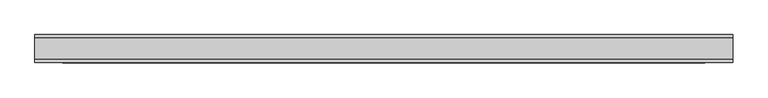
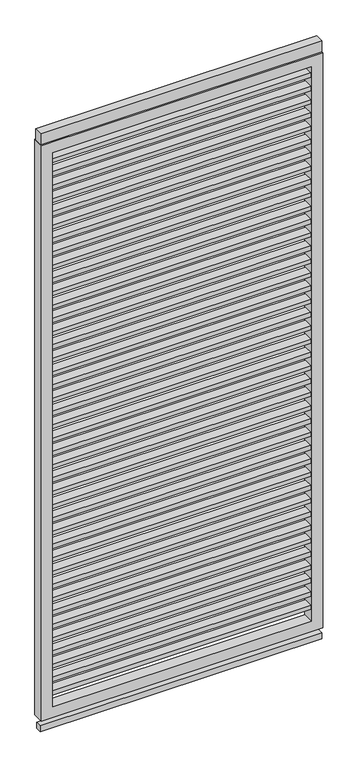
"""IFC4 building model written with IfcOpenShell, lengths in millimetres: proxy geometry, Renson_Camargue_Loggia_Plano : Renson_Camargue_Loggia_Plano."""

from ifc_helpers import new_model, si_unit, frame, origin, origin_with_axes, place, context, project, spatial, polyline, outline, extrude, source, transform, mapped, element, save


def generic_models_42a8c13e(model_context):
    return source(origin(), model_context, "Body", "SweptSolid", [
        extrude(outline(polyline([(460.0, 16.5), (460.0, -16.5), (-460.0, -16.5), (-460.0, 16.5), (460.0, 16.5)])), frame((0.0, 0.0, 2127.0), z_axis=(0.0, 0.0, 1.0), x_axis=(1.0, 0.0, 0.0)), (0.0, 0.0, 1.0), 16.0),
        extrude(outline(polyline([(460.0, 16.5), (460.0, -16.5), (-460.0, -16.5), (-460.0, 16.5), (460.0, 16.5)])), frame((0.0, 0.0, 2077.0), z_axis=(0.0, 0.0, 1.0), x_axis=(1.0, 0.0, 0.0)), (0.0, 0.0, 1.0), 16.0),
        extrude(outline(polyline([(460.0, 16.5), (460.0, -16.5), (-460.0, -16.5), (-460.0, 16.5), (460.0, 16.5)])), frame((0.0, 0.0, 2027.0), z_axis=(0.0, 0.0, 1.0), x_axis=(1.0, 0.0, 0.0)), (0.0, 0.0, 1.0), 16.0),
        extrude(outline(polyline([(460.0, 16.5), (460.0, -16.5), (-460.0, -16.5), (-460.0, 16.5), (460.0, 16.5)])), frame((0.0, 0.0, 1977.0), z_axis=(0.0, 0.0, 1.0), x_axis=(1.0, 0.0, 0.0)), (0.0, 0.0, 1.0), 16.0),
        extrude(outline(polyline([(460.0, 16.5), (460.0, -16.5), (-460.0, -16.5), (-460.0, 16.5), (460.0, 16.5)])), frame((0.0, 0.0, 1927.0), z_axis=(0.0, 0.0, 1.0), x_axis=(1.0, 0.0, 0.0)), (0.0, 0.0, 1.0), 16.0),
        extrude(outline(polyline([(460.0, 16.5), (460.0, -16.5), (-460.0, -16.5), (-460.0, 16.5), (460.0, 16.5)])), frame((0.0, 0.0, 1877.0), z_axis=(0.0, 0.0, 1.0), x_axis=(1.0, 0.0, 0.0)), (0.0, 0.0, 1.0), 16.0),
        extrude(outline(polyline([(460.0, 16.5), (460.0, -16.5), (-460.0, -16.5), (-460.0, 16.5), (460.0, 16.5)])), frame((0.0, 0.0, 1827.0), z_axis=(0.0, 0.0, 1.0), x_axis=(1.0, 0.0, 0.0)), (0.0, 0.0, 1.0), 16.0),
        extrude(outline(polyline([(460.0, 16.5), (460.0, -16.5), (-460.0, -16.5), (-460.0, 16.5), (460.0, 16.5)])), frame((0.0, 0.0, 1777.0), z_axis=(0.0, 0.0, 1.0), x_axis=(1.0, 0.0, 0.0)), (0.0, 0.0, 1.0), 16.0),
        extrude(outline(polyline([(460.0, 16.5), (460.0, -16.5), (-460.0, -16.5), (-460.0, 16.5), (460.0, 16.5)])), frame((0.0, 0.0, 1727.0), z_axis=(0.0, 0.0, 1.0), x_axis=(1.0, 0.0, 0.0)), (0.0, 0.0, 1.0), 16.0),
        extrude(outline(polyline([(460.0, 16.5), (460.0, -16.5), (-460.0, -16.5), (-460.0, 16.5), (460.0, 16.5)])), frame((0.0, 0.0, 1677.0), z_axis=(0.0, 0.0, 1.0), x_axis=(1.0, 0.0, 0.0)), (0.0, 0.0, 1.0), 16.0),
        extrude(outline(polyline([(460.0, 16.5), (460.0, -16.5), (-460.0, -16.5), (-460.0, 16.5), (460.0, 16.5)])), frame((0.0, 0.0, 1627.0), z_axis=(0.0, 0.0, 1.0), x_axis=(1.0, 0.0, 0.0)), (0.0, 0.0, 1.0), 16.0),
        extrude(outline(polyline([(460.0, 16.5), (460.0, -16.5), (-460.0, -16.5), (-460.0, 16.5), (460.0, 16.5)])), frame((0.0, 0.0, 1577.0), z_axis=(0.0, 0.0, 1.0), x_axis=(1.0, 0.0, 0.0)), (0.0, 0.0, 1.0), 16.0),
        extrude(outline(polyline([(460.0, 16.5), (460.0, -16.5), (-460.0, -16.5), (-460.0, 16.5), (460.0, 16.5)])), frame((0.0, 0.0, 1527.0), z_axis=(0.0, 0.0, 1.0), x_axis=(1.0, 0.0, 0.0)), (0.0, 0.0, 1.0), 16.0),
        extrude(outline(polyline([(460.0, 16.5), (460.0, -16.5), (-460.0, -16.5), (-460.0, 16.5), (460.0, 16.5)])), frame((0.0, 0.0, 1477.0), z_axis=(0.0, 0.0, 1.0), x_axis=(1.0, 0.0, 0.0)), (0.0, 0.0, 1.0), 16.0),
        extrude(outline(polyline([(460.0, 16.5), (460.0, -16.5), (-460.0, -16.5), (-460.0, 16.5), (460.0, 16.5)])), frame((0.0, 0.0, 1427.0), z_axis=(0.0, 0.0, 1.0), x_axis=(1.0, 0.0, 0.0)), (0.0, 0.0, 1.0), 16.0),
        extrude(outline(polyline([(460.0, 16.5), (460.0, -16.5), (-460.0, -16.5), (-460.0, 16.5), (460.0, 16.5)])), frame((0.0, 0.0, 1377.0), z_axis=(0.0, 0.0, 1.0), x_axis=(1.0, 0.0, 0.0)), (0.0, 0.0, 1.0), 16.0),
        extrude(outline(polyline([(460.0, 16.5), (460.0, -16.5), (-460.0, -16.5), (-460.0, 16.5), (460.0, 16.5)])), frame((0.0, 0.0, 1327.0), z_axis=(0.0, 0.0, 1.0), x_axis=(1.0, 0.0, 0.0)), (0.0, 0.0, 1.0), 16.0),
        extrude(outline(polyline([(460.0, 16.5), (460.0, -16.5), (-460.0, -16.5), (-460.0, 16.5), (460.0, 16.5)])), frame((0.0, 0.0, 1277.0), z_axis=(0.0, 0.0, 1.0), x_axis=(1.0, 0.0, 0.0)), (0.0, 0.0, 1.0), 16.0),
        extrude(outline(polyline([(460.0, 16.5), (460.0, -16.5), (-460.0, -16.5), (-460.0, 16.5), (460.0, 16.5)])), frame((0.0, 0.0, 1227.0), z_axis=(0.0, 0.0, 1.0), x_axis=(1.0, 0.0, 0.0)), (0.0, 0.0, 1.0), 16.0),
        extrude(outline(polyline([(460.0, 16.5), (460.0, -16.5), (-460.0, -16.5), (-460.0, 16.5), (460.0, 16.5)])), frame((0.0, 0.0, 1177.0), z_axis=(0.0, 0.0, 1.0), x_axis=(1.0, 0.0, 0.0)), (0.0, 0.0, 1.0), 16.0),
        extrude(outline(polyline([(460.0, 16.5), (460.0, -16.5), (-460.0, -16.5), (-460.0, 16.5), (460.0, 16.5)])), frame((0.0, 0.0, 1127.0), z_axis=(0.0, 0.0, 1.0), x_axis=(1.0, 0.0, 0.0)), (0.0, 0.0, 1.0), 16.0),
        extrude(outline(polyline([(460.0, 16.5), (460.0, -16.5), (-460.0, -16.5), (-460.0, 16.5), (460.0, 16.5)])), frame((0.0, 0.0, 1077.0), z_axis=(0.0, 0.0, 1.0), x_axis=(1.0, 0.0, 0.0)), (0.0, 0.0, 1.0), 16.0),
        extrude(outline(polyline([(460.0, 16.5), (460.0, -16.5), (-460.0, -16.5), (-460.0, 16.5), (460.0, 16.5)])), frame((0.0, 0.0, 1027.0), z_axis=(0.0, 0.0, 1.0), x_axis=(1.0, 0.0, 0.0)), (0.0, 0.0, 1.0), 16.0),
        extrude(outline(polyline([(460.0, 16.5), (460.0, -16.5), (-460.0, -16.5), (-460.0, 16.5), (460.0, 16.5)])), frame((0.0, 0.0, 977.0), z_axis=(0.0, 0.0, 1.0), x_axis=(1.0, 0.0, 0.0)), (0.0, 0.0, 1.0), 16.0),
        extrude(outline(polyline([(460.0, 16.5), (460.0, -16.5), (-460.0, -16.5), (-460.0, 16.5), (460.0, 16.5)])), frame((0.0, 0.0, 927.0), z_axis=(0.0, 0.0, 1.0), x_axis=(1.0, 0.0, 0.0)), (0.0, 0.0, 1.0), 16.0),
        extrude(outline(polyline([(460.0, 16.5), (460.0, -16.5), (-460.0, -16.5), (-460.0, 16.5), (460.0, 16.5)])), frame((0.0, 0.0, 877.0), z_axis=(0.0, 0.0, 1.0), x_axis=(1.0, 0.0, 0.0)), (0.0, 0.0, 1.0), 16.0),
        extrude(outline(polyline([(460.0, 16.5), (460.0, -16.5), (-460.0, -16.5), (-460.0, 16.5), (460.0, 16.5)])), frame((0.0, 0.0, 827.0), z_axis=(0.0, 0.0, 1.0), x_axis=(1.0, 0.0, 0.0)), (0.0, 0.0, 1.0), 16.0),
        extrude(outline(polyline([(460.0, 16.5), (460.0, -16.5), (-460.0, -16.5), (-460.0, 16.5), (460.0, 16.5)])), frame((0.0, 0.0, 777.0), z_axis=(0.0, 0.0, 1.0), x_axis=(1.0, 0.0, 0.0)), (0.0, 0.0, 1.0), 16.0),
        extrude(outline(polyline([(460.0, 16.5), (460.0, -16.5), (-460.0, -16.5), (-460.0, 16.5), (460.0, 16.5)])), frame((0.0, 0.0, 727.0), z_axis=(0.0, 0.0, 1.0), x_axis=(1.0, 0.0, 0.0)), (0.0, 0.0, 1.0), 16.0),
        extrude(outline(polyline([(460.0, 16.5), (460.0, -16.5), (-460.0, -16.5), (-460.0, 16.5), (460.0, 16.5)])), frame((0.0, 0.0, 677.0), z_axis=(0.0, 0.0, 1.0), x_axis=(1.0, 0.0, 0.0)), (0.0, 0.0, 1.0), 16.0),
        extrude(outline(polyline([(460.0, 16.5), (460.0, -16.5), (-460.0, -16.5), (-460.0, 16.5), (460.0, 16.5)])), frame((0.0, 0.0, 627.0), z_axis=(0.0, 0.0, 1.0), x_axis=(1.0, 0.0, 0.0)), (0.0, 0.0, 1.0), 16.0),
        extrude(outline(polyline([(460.0, 16.5), (460.0, -16.5), (-460.0, -16.5), (-460.0, 16.5), (460.0, 16.5)])), frame((0.0, 0.0, 577.0), z_axis=(0.0, 0.0, 1.0), x_axis=(1.0, 0.0, 0.0)), (0.0, 0.0, 1.0), 16.0),
        extrude(outline(polyline([(460.0, 16.5), (460.0, -16.5), (-460.0, -16.5), (-460.0, 16.5), (460.0, 16.5)])), frame((0.0, 0.0, 527.0), z_axis=(0.0, 0.0, 1.0), x_axis=(1.0, 0.0, 0.0)), (0.0, 0.0, 1.0), 16.0),
        extrude(outline(polyline([(460.0, 16.5), (460.0, -16.5), (-460.0, -16.5), (-460.0, 16.5), (460.0, 16.5)])), frame((0.0, 0.0, 477.0), z_axis=(0.0, 0.0, 1.0), x_axis=(1.0, 0.0, 0.0)), (0.0, 0.0, 1.0), 16.0),
        extrude(outline(polyline([(460.0, 16.5), (460.0, -16.5), (-460.0, -16.5), (-460.0, 16.5), (460.0, 16.5)])), frame((0.0, 0.0, 427.0), z_axis=(0.0, 0.0, 1.0), x_axis=(1.0, 0.0, 0.0)), (0.0, 0.0, 1.0), 16.0),
        extrude(outline(polyline([(460.0, 16.5), (460.0, -16.5), (-460.0, -16.5), (-460.0, 16.5), (460.0, 16.5)])), frame((0.0, 0.0, 377.0), z_axis=(0.0, 0.0, 1.0), x_axis=(1.0, 0.0, 0.0)), (0.0, 0.0, 1.0), 16.0),
        extrude(outline(polyline([(460.0, 16.5), (460.0, -16.5), (-460.0, -16.5), (-460.0, 16.5), (460.0, 16.5)])), frame((0.0, 0.0, 327.0), z_axis=(0.0, 0.0, 1.0), x_axis=(1.0, 0.0, 0.0)), (0.0, 0.0, 1.0), 16.0),
        extrude(outline(polyline([(460.0, 16.5), (460.0, -16.5), (-460.0, -16.5), (-460.0, 16.5), (460.0, 16.5)])), frame((0.0, 0.0, 277.0), z_axis=(0.0, 0.0, 1.0), x_axis=(1.0, 0.0, 0.0)), (0.0, 0.0, 1.0), 16.0),
        extrude(outline(polyline([(460.0, 16.5), (460.0, -16.5), (-460.0, -16.5), (-460.0, 16.5), (460.0, 16.5)])), frame((0.0, 0.0, 227.0), z_axis=(0.0, 0.0, 1.0), x_axis=(1.0, 0.0, 0.0)), (0.0, 0.0, 1.0), 16.0),
        extrude(outline(polyline([(460.0, 16.5), (460.0, -16.5), (-460.0, -16.5), (-460.0, 16.5), (460.0, 16.5)])), frame((0.0, 0.0, 177.0), z_axis=(0.0, 0.0, 1.0), x_axis=(1.0, 0.0, 0.0)), (0.0, 0.0, 1.0), 16.0),
        extrude(outline(polyline([(460.0, 16.5), (460.0, -16.5), (-460.0, -16.5), (-460.0, 16.5), (460.0, 16.5)])), frame((0.0, 0.0, 127.0), z_axis=(0.0, 0.0, 1.0), x_axis=(1.0, 0.0, 0.0)), (0.0, 0.0, 1.0), 16.0),
        extrude(outline(polyline([(500.0, 15.0), (500.0, -15.0), (-500.0, -15.0), (-500.0, 15.0), (500.0, 15.0)])), frame((0.0, 0.0, 2207.7138321), z_axis=(0.0, 0.0, 1.0), x_axis=(1.0, 0.0, 0.0)), (0.0, 0.0, 1.0), 42.2861679),
        extrude(outline(polyline([(500.0, 15.0), (500.0, -15.0), (-500.0, -15.0), (-500.0, 15.0), (500.0, 15.0)])), frame((0.0, 0.0, 2207.7138321), z_axis=(0.0, 0.0, 1.0), x_axis=(1.0, 0.0, 0.0)), (0.0, 0.0, 1.0), 42.2861679),
        extrude(outline(polyline([(500.0, -13.0), (-500.0, -13.0), (-500.0, 10.0), (500.0, 10.0), (500.0, -13.0)])), origin_with_axes(), (0.0, 0.0, 1.0), 23.0),
        extrude(outline(polyline([(500.0, 10.0), (500.0, -13.0), (-500.0, -13.0), (-500.0, 10.0), (500.0, 10.0)])), origin_with_axes(), (0.0, 0.0, 1.0), 23.0),
        extrude(outline(polyline([(2207.7138321, -500.0), (45.0, -500.0), (45.0, 500.0), (2207.7138321, 500.0), (2207.7138321, -500.0)]), holes=[polyline([(2167.7138321, 460.0), (85.0, 460.0), (85.0, -460.0), (2167.7138321, -460.0), (2167.7138321, 460.0)])]), frame((0.0, -20.0, 0.0), z_axis=(0.0, 1.0, 0.0), x_axis=(0.0, 0.0, 1.0)), (0.0, 0.0, 1.0), 40.0),
    ])


if __name__ == "__main__":
    model = new_model("IFC4")
    model_context = context("Model", 3, world=origin())
    ifc_project = project(units=[si_unit("LENGTHUNIT", "METRE", prefix="MILLI")], contexts=[model_context])
    site = spatial("IfcSite", under=ifc_project)
    building = spatial("IfcBuilding", under=site)
    placement = place(None, origin())
    generic_models_shape = generic_models_42a8c13e(model_context)
    element("IfcBuildingElementProxy", 1, Name="Renson_Camargue_Loggia_Plano : Renson_Camargue_Loggia_Plano", ObjectType="Renson_Camargue_Loggia_Plano : Renson_Camargue_Loggia_Plano", at=placement, inside=building, context=model_context, shape_type="MappedRepresentation", body=[
        mapped(generic_models_shape, transform((0.0, 0.0, 0.0), x_axis=(1.0, 0.0, 0.0), y_axis=(0.0, 1.0, 0.0), z_axis=(0.0, 0.0, 1.0))),
    ])
    save(model, "model.ifc")
